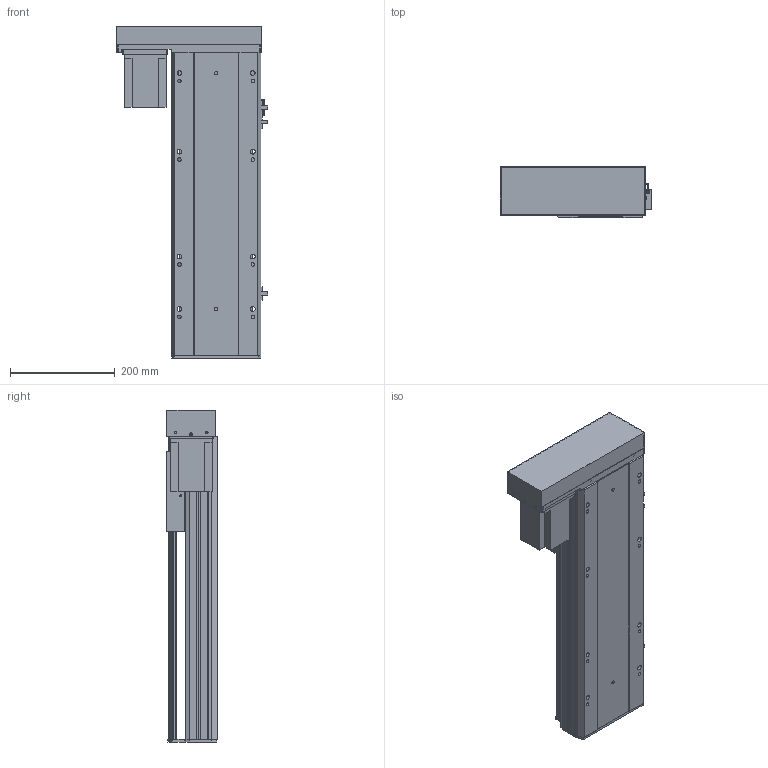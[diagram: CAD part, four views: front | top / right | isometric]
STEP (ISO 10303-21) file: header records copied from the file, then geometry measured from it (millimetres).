
FILE_DESCRIPTION (( 'STEP AP203' ), '1' );
FILE_NAME ('Y170-D10-S350-BL-P750W.STEP', '2020-01-19T22:48:43', ( '微软用户' ), ( '微软中国' ), 'SwSTEP 2.0', 'SolidWorks 2017', '' );
FILE_SCHEMA (( 'CONFIG_CONTROL_DESIGN' ));
Length unit declared in the file: millimetre
Products named in the file (12): Y170-BL-P750W楊擘啣; 侂狟750W; EGH20賑輸_蕼偞; Y雄赽釱-耜蚾; Y-BL.BR-俋欶; Y170耜裔--準---; Y170-陔遴奻裔-BR; YD-Y100-135-新外置传感挡片(通用）; Y--BL蟀諉啣-陔遴-; Y100-135俋离換覜ん; Y170-D10-S350-BL-P750W; 170--掛极-BR
Assembly tree (14 placements, depth 2):
  Y170-D10-S350-BL-P750W
    Y170耜裔--準---
    YD-Y100-135-新外置传感挡片(通用）
    Y100-135俋离換覜ん  x3
    170--掛极-BR
    Y170-BL-P750W楊擘啣
    侂狟750W
    EGH20賑輸_蕼偞  x2
    Y雄赽釱-耜蚾
    Y-BL.BR-俋欶
    Y170-陔遴奻裔-BR
    Y--BL蟀諉啣-陔遴-
Bounding box: 289 x 97 x 633.5 mm (x, y, z)
Volume: 3664137.3 mm3; surface area: 1200943.1 mm2
Topology: 14 solids, 14 shells, 897 faces, 2498 edges, 1648 vertices
Faces by surface type: plane 443, cylinder 438, cone 16
Entity records: 28010 total; most frequent: CARTESIAN_POINT 4846, DIRECTION 4668, ORIENTED_EDGE 4492, EDGE_CURVE 2246, AXIS2_PLACEMENT_3D 1650, VERTEX_POINT 1492, LINE 1368, VECTOR 1368
